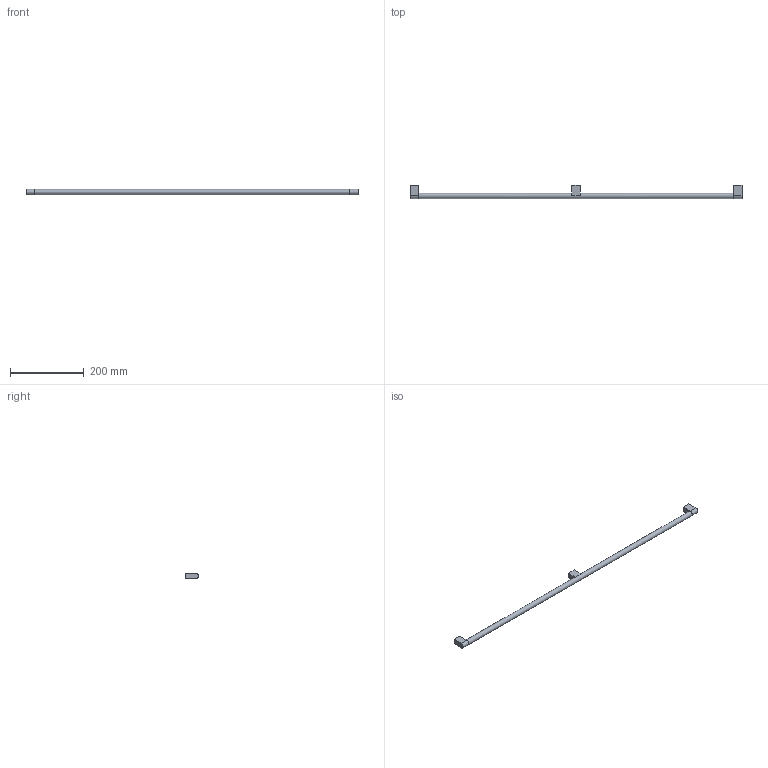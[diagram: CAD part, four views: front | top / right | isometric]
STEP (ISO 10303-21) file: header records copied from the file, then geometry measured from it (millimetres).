
FILE_DESCRIPTION( ( 'STEP AP214' ), '1' );
FILE_NAME( 'C:/Shahbaz/Shahbaz D&D/Task/Working-ON/Varna/QC/9332357.stp', '2023-08-29T07:01:44', ( '' ), ( '' ), ' ', 'PARTsolutions', ' ' );
FILE_SCHEMA( ( 'AUTOMOTIVE_DESIGN { 1 0 10303 214 1 1 1 1 }' ) );
Length unit declared in the file: millimetre
Products named in the file (1): _9332357
Bounding box: 900 x 35.36 x 14.64 mm (x, y, z)
Volume: 163389.5 mm3; surface area: 46645.6 mm2
Topology: 1 solids, 1 shells, 26 faces, 54 edges, 36 vertices
Faces by surface type: plane 20, cylinder 6
Full cylindrical faces by diameter (mm): 6.2 x2, 6.5 x1, 14.2 x1
Entity records: 896 total; most frequent: DIRECTION 118, CARTESIAN_POINT 113, ORIENTED_EDGE 100, EDGE_CURVE 50, AXIS2_PLACEMENT_3D 41, EDGE_LOOP 36, VERTEX_POINT 36, LINE 36
